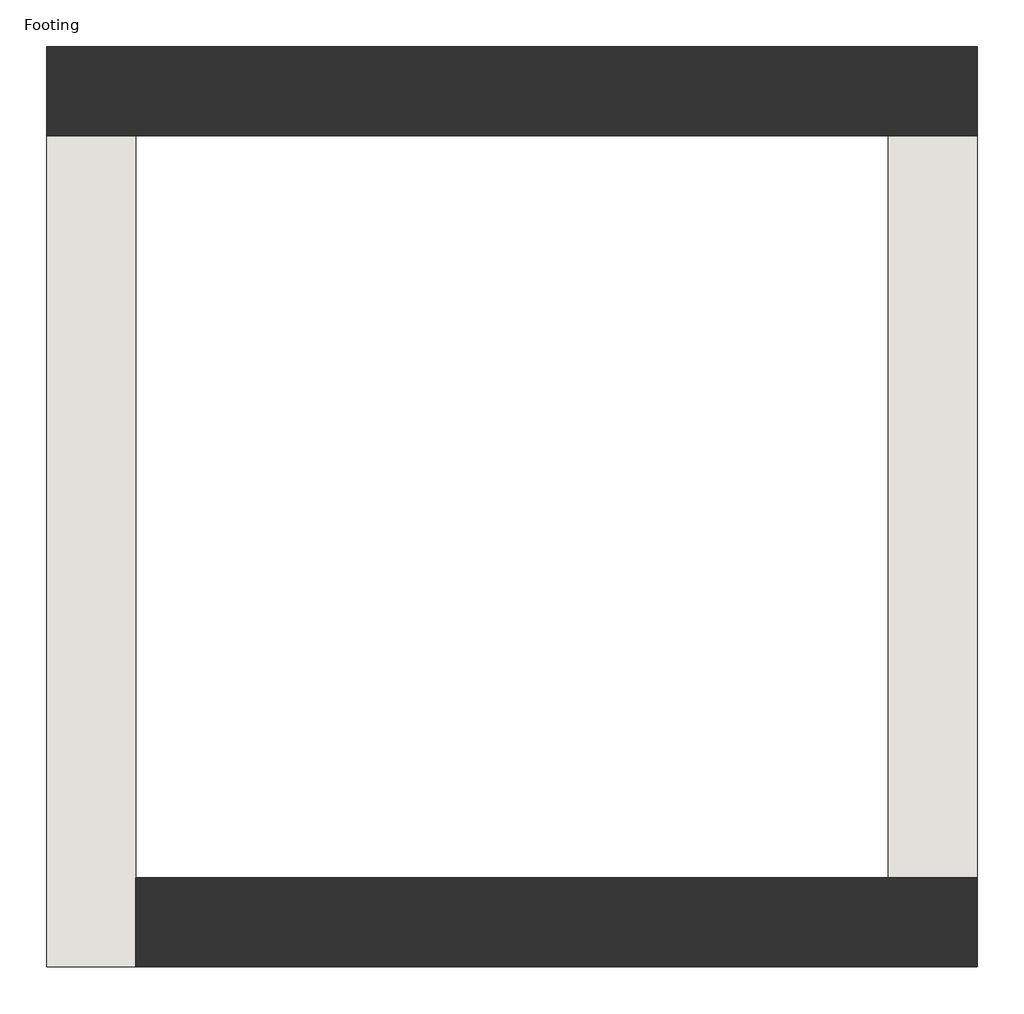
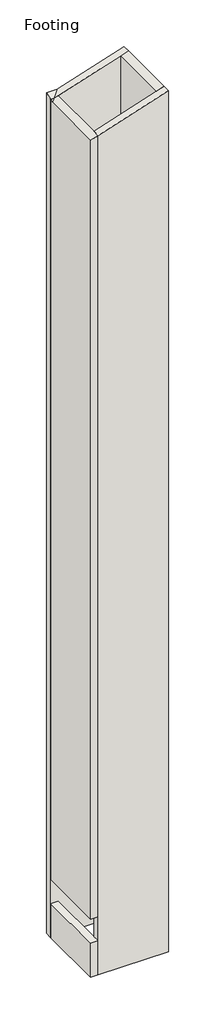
# One storey: 4 walls.
"""IFC4 building model written with IfcOpenShell, lengths in millimetres."""

from ifc_helpers import new_model, si_unit, origin, place, context, project, spatial, faceted_brep, element, save

model = new_model("IFC4")

# Units and contexts
model_context = context("Model", 3, world=origin())
ifc_project = project(units=[si_unit("LENGTHUNIT", "METRE", prefix="MILLI")], contexts=[model_context])

# Site, building, storey
site = spatial("IfcSite", under=ifc_project)
building = spatial("IfcBuilding", under=site)
storey = spatial("IfcBuildingStorey", under=building, Name="Footing", Elevation=-4500.0)

# Walls
placement = place(None, origin())
element("IfcWall", 1, ObjectType="Interior - 170mm", at=placement, inside=storey, context=model_context, shape_type="Brep", body=[
    faceted_brep([(362.8037835, 1117.6290541, -4500.0), (-1407.1962165, 1117.6290541, -4500.0), (-1407.1962165, 1117.6290541, 15717.073837), (-1160.9948041, 1117.6290541, 15717.073837), (362.8037835, 1117.6290541, 16212.1860111), (362.8037835, 947.6290541, -4500.0), (362.8037835, 947.6290541, -3680.0), (362.8037835, 947.6290541, -3100.0), (362.8037835, 947.6290541, -400.0), (362.8037835, 947.6290541, 0.0), (362.8037835, 947.6290541, 2630.0), (362.8037835, 947.6290541, 2950.0), (362.8037835, 947.6290541, 5580.0), (362.8037835, 947.6290541, 5900.0), (362.8037835, 947.6290541, 8530.0), (362.8037835, 947.6290541, 8850.0), (362.8037835, 947.6290541, 11480.0), (362.8037835, 947.6290541, 11800.0), (362.8037835, 947.6290541, 16212.1860111), (192.8037835, 947.6290541, 16156.9496628), (-1237.1962165, 947.6290541, 15692.3144972), (-1330.9948041, 947.6290541, 15661.8374886), (-1407.1962165, 947.6290541, 15661.8374886), (-1407.1962165, 947.6290541, -3100.0), (-1407.1962165, 947.6290541, -3680.0), (-1407.1962165, 947.6290541, -4500.0), (-1237.1962165, 947.6290541, -4500.0), (192.8037835, 947.6290541, -4500.0)], [[[0, 1, 2, 3, 4]], [[5, 6, 7, 8, 9, 10, 11, 12, 13, 14, 15, 16, 17, 18, 19, 20, 21, 22, 23, 24, 25, 26, 27]], [[1, 0, 5, 27, 26, 25]], [[2, 1, 25, 24, 23, 22]], [[0, 4, 18, 17, 16, 15, 14, 13, 12, 11, 10, 9, 8, 7, 6, 5]], [[4, 3, 21, 20, 19, 18]], [[3, 2, 22, 21]]]),
])
element("IfcWall", 2, ObjectType="Interior - 170mm", at=placement, inside=storey, context=model_context, shape_type="Brep", body=[
    faceted_brep([(-1407.1962165, -632.3709459, -4500.0), (-1407.1962165, 947.6290541, -4500.0), (-1237.1962165, 947.6290541, -4500.0), (-1237.1962165, -462.3709459, -4500.0), (-1237.1962165, -632.3709459, -4500.0), (-1407.1962165, -632.3709459, -3680.0), (-1407.1962165, 947.6290541, -3680.0), (-1237.1962165, 947.6290541, -3680.0), (-1237.1962165, -462.3709459, -3680.0), (-1237.1962165, -632.3709459, -3680.0)], [[[0, 1, 2, 3, 4]], [[1, 0, 5, 6]], [[4, 3, 2, 7, 8, 9]], [[2, 1, 6, 7]], [[0, 4, 9, 5]], [[6, 5, 9, 8, 7]]]),
    faceted_brep([(-1407.1962165, 871.4276416, 15637.0781488), (-1407.1962165, 947.6290541, 15661.8374886), (-1407.1962165, 947.6290541, -3100.0), (-1407.1962165, -632.3709459, -3100.0), (-1407.1962165, -632.3709459, 15637.0781488), (-1237.1962165, 947.6290541, 15692.3144972), (-1237.1962165, -462.3709459, 15692.3144972), (-1237.1962165, -632.3709459, 15692.3144972), (-1237.1962165, -632.3709459, -3100.0), (-1237.1962165, -462.3709459, -3100.0), (-1237.1962165, 947.6290541, -3100.0), (-1330.9948041, 947.6290541, 15661.8374886)], [[[0, 1, 2, 3, 4]], [[5, 6, 7, 8, 9, 10]], [[11, 5, 10, 2, 1]], [[7, 4, 3, 8]], [[1, 0, 11]], [[7, 6, 5, 11, 0, 4]], [[3, 2, 10, 9, 8]]]),
])
element("IfcWall", 3, ObjectType="Interior - 170mm", at=placement, inside=storey, context=model_context, shape_type="Brep", body=[
    faceted_brep([(-1237.1962165, -632.3709459, -4500.0), (362.8037835, -632.3709459, -4500.0), (362.8037835, -632.3709459, 16212.1860111), (-1237.1962165, -632.3709459, 15692.3144972), (-1237.1962165, -632.3709459, -3100.0), (-1237.1962165, -632.3709459, -3680.0), (-1237.1962165, -462.3709459, -4500.0), (-1237.1962165, -462.3709459, 15692.3144972), (192.8037835, -462.3709459, 16156.9496628), (362.8037835, -462.3709459, 16212.1860111), (362.8037835, -462.3709459, 11800.0), (362.8037835, -462.3709459, 11480.0), (362.8037835, -462.3709459, 8850.0), (362.8037835, -462.3709459, 8530.0), (362.8037835, -462.3709459, 5900.0), (362.8037835, -462.3709459, 5580.0), (362.8037835, -462.3709459, 2950.0), (362.8037835, -462.3709459, 2630.0), (362.8037835, -462.3709459, -3100.0), (362.8037835, -462.3709459, -3680.0), (362.8037835, -462.3709459, -4500.0), (192.8037835, -462.3709459, -4500.0)], [[[0, 1, 2, 3, 4, 5]], [[6, 7, 8, 9, 10, 11, 12, 13, 14, 15, 16, 17, 18, 19, 20, 21]], [[1, 0, 6, 21, 20]], [[2, 1, 20, 19, 18, 17, 16, 15, 14, 13, 12, 11, 10, 9]], [[0, 5, 4, 3, 7, 6]], [[3, 2, 9, 8, 7]]]),
])
element("IfcWall", 4, ObjectType="Interior - 170mm", at=placement, inside=storey, context=model_context, shape_type="Brep", body=[
    faceted_brep([(362.8037835, 947.6290541, -4500.0), (362.8037835, -462.3709459, -4500.0), (192.8037835, -462.3709459, -4500.0), (192.8037835, 947.6290541, -4500.0), (362.8037835, 947.6290541, -3680.0), (362.8037835, -462.3709459, -3680.0), (192.8037835, -462.3709459, -3680.0), (192.8037835, 947.6290541, -3680.0)], [[[0, 1, 2, 3]], [[1, 0, 4, 5]], [[3, 2, 6, 7]], [[2, 1, 5, 6]], [[0, 3, 7, 4]], [[5, 4, 7, 6]]]),
    faceted_brep([(362.8037835, 947.6290541, 16212.1860111), (362.8037835, -462.3709459, 16212.1860111), (362.8037835, -462.3709459, 11800.0), (362.8037835, -299.8709459, 11800.0), (362.8037835, -299.8709459, 13800.0), (362.8037835, 800.1290541, 13800.0), (362.8037835, 800.1290541, 11800.0), (362.8037835, 947.6290541, 11800.0), (192.8037835, -462.3709459, 16156.9496628), (192.8037835, 947.6290541, 16156.9496628), (192.8037835, 947.6290541, 11800.0), (192.8037835, 800.1290541, 11800.0), (192.8037835, 800.1290541, 13800.0), (192.8037835, -299.8709459, 13800.0), (192.8037835, -299.8709459, 11800.0), (192.8037835, -462.3709459, 11800.0)], [[[0, 1, 2, 3, 4, 5, 6, 7]], [[8, 9, 10, 11, 12, 13, 14, 15]], [[1, 8, 15, 2]], [[9, 0, 7, 10]], [[1, 0, 9, 8]], [[4, 3, 14, 13]], [[5, 4, 13, 12]], [[6, 5, 12, 11]], [[3, 2, 15, 14]], [[7, 6, 11, 10]]]),
    faceted_brep([(362.8037835, -299.8709459, -3100.0), (362.8037835, -299.8709459, -1100.0), (362.8037835, 800.1290541, -1100.0), (362.8037835, 800.1290541, -3100.0), (362.8037835, 947.6290541, -3100.0), (362.8037835, 947.6290541, -400.0), (362.8037835, -162.3709459, -400.0), (362.8037835, -162.3709459, 0.0), (362.8037835, -299.8709459, 0.0), (362.8037835, -299.8709459, 2000.0), (362.8037835, 800.1290541, 2000.0), (362.8037835, 800.1290541, 0.0), (362.8037835, 947.6290541, 0.0), (362.8037835, 947.6290541, 2630.0), (362.8037835, -462.3709459, 2630.0), (362.8037835, -462.3709459, 0.0), (362.8037835, -462.3709459, -400.0), (362.8037835, -462.3709459, -3100.0), (192.8037835, -299.8709459, -1100.0), (192.8037835, -299.8709459, -3100.0), (192.8037835, -462.3709459, -3100.0), (192.8037835, -462.3709459, 2630.0), (192.8037835, 947.6290541, 2630.0), (192.8037835, 947.6290541, 0.0), (192.8037835, 800.1290541, 0.0), (192.8037835, 800.1290541, 2000.0), (192.8037835, -299.8709459, 2000.0), (192.8037835, -299.8709459, 0.0), (192.8037835, -162.3709459, 0.0), (192.8037835, -162.3709459, -400.0), (192.8037835, 947.6290541, -400.0), (192.8037835, 947.6290541, -3100.0), (192.8037835, 800.1290541, -3100.0), (192.8037835, 800.1290541, -1100.0)], [[[0, 1, 2, 3, 4, 5, 6, 7, 8, 9, 10, 11, 12, 13, 14, 15, 16, 17]], [[18, 19, 20, 21, 22, 23, 24, 25, 26, 27, 28, 29, 30, 31, 32, 33]], [[20, 17, 16, 15, 14, 21]], [[4, 31, 30, 5]], [[12, 23, 22, 13]], [[1, 0, 19, 18]], [[2, 1, 18, 33]], [[3, 2, 33, 32]], [[27, 8, 7, 28]], [[9, 8, 27, 26]], [[10, 9, 26, 25]], [[11, 10, 25, 24]], [[4, 3, 32, 31]], [[0, 17, 20, 19]], [[29, 6, 5, 30]], [[12, 11, 24, 23]], [[6, 29, 28, 7]], [[14, 13, 22, 21]]]),
    faceted_brep([(362.8037835, -299.8709459, 8850.0), (362.8037835, -299.8709459, 10850.0), (362.8037835, 800.1290541, 10850.0), (362.8037835, 800.1290541, 8850.0), (362.8037835, 947.6290541, 8850.0), (362.8037835, 947.6290541, 11480.0), (362.8037835, -462.3709459, 11480.0), (362.8037835, -462.3709459, 8850.0), (192.8037835, -299.8709459, 10850.0), (192.8037835, -299.8709459, 8850.0), (192.8037835, -462.3709459, 8850.0), (192.8037835, -462.3709459, 11480.0), (192.8037835, 947.6290541, 11480.0), (192.8037835, 947.6290541, 8850.0), (192.8037835, 800.1290541, 8850.0), (192.8037835, 800.1290541, 10850.0)], [[[0, 1, 2, 3, 4, 5, 6, 7]], [[8, 9, 10, 11, 12, 13, 14, 15]], [[10, 7, 6, 11]], [[4, 13, 12, 5]], [[1, 0, 9, 8]], [[2, 1, 8, 15]], [[3, 2, 15, 14]], [[0, 7, 10, 9]], [[4, 3, 14, 13]], [[6, 5, 12, 11]]]),
    faceted_brep([(362.8037835, -299.8709459, 5900.0), (362.8037835, -299.8709459, 7900.0), (362.8037835, 800.1290541, 7900.0), (362.8037835, 800.1290541, 5900.0), (362.8037835, 947.6290541, 5900.0), (362.8037835, 947.6290541, 8530.0), (362.8037835, -462.3709459, 8530.0), (362.8037835, -462.3709459, 5900.0), (192.8037835, -299.8709459, 7900.0), (192.8037835, -299.8709459, 5900.0), (192.8037835, -462.3709459, 5900.0), (192.8037835, -462.3709459, 8530.0), (192.8037835, 947.6290541, 8530.0), (192.8037835, 947.6290541, 5900.0), (192.8037835, 800.1290541, 5900.0), (192.8037835, 800.1290541, 7900.0)], [[[0, 1, 2, 3, 4, 5, 6, 7]], [[8, 9, 10, 11, 12, 13, 14, 15]], [[6, 11, 10, 7]], [[12, 5, 4, 13]], [[1, 0, 9, 8]], [[2, 1, 8, 15]], [[3, 2, 15, 14]], [[6, 5, 12, 11]], [[4, 3, 14, 13]], [[0, 7, 10, 9]]]),
    faceted_brep([(362.8037835, -299.8709459, 2950.0), (362.8037835, -299.8709459, 4950.0), (362.8037835, 800.1290541, 4950.0), (362.8037835, 800.1290541, 2950.0), (362.8037835, 947.6290541, 2950.0), (362.8037835, 947.6290541, 5580.0), (362.8037835, -462.3709459, 5580.0), (362.8037835, -462.3709459, 2950.0), (192.8037835, -299.8709459, 4950.0), (192.8037835, -299.8709459, 2950.0), (192.8037835, -462.3709459, 2950.0), (192.8037835, -462.3709459, 5580.0), (192.8037835, 947.6290541, 5580.0), (192.8037835, 947.6290541, 2950.0), (192.8037835, 800.1290541, 2950.0), (192.8037835, 800.1290541, 4950.0)], [[[0, 1, 2, 3, 4, 5, 6, 7]], [[8, 9, 10, 11, 12, 13, 14, 15]], [[10, 7, 6, 11]], [[4, 13, 12, 5]], [[1, 0, 9, 8]], [[2, 1, 8, 15]], [[3, 2, 15, 14]], [[0, 7, 10, 9]], [[4, 3, 14, 13]], [[6, 5, 12, 11]]]),
])

save(model, "model.ifc")
